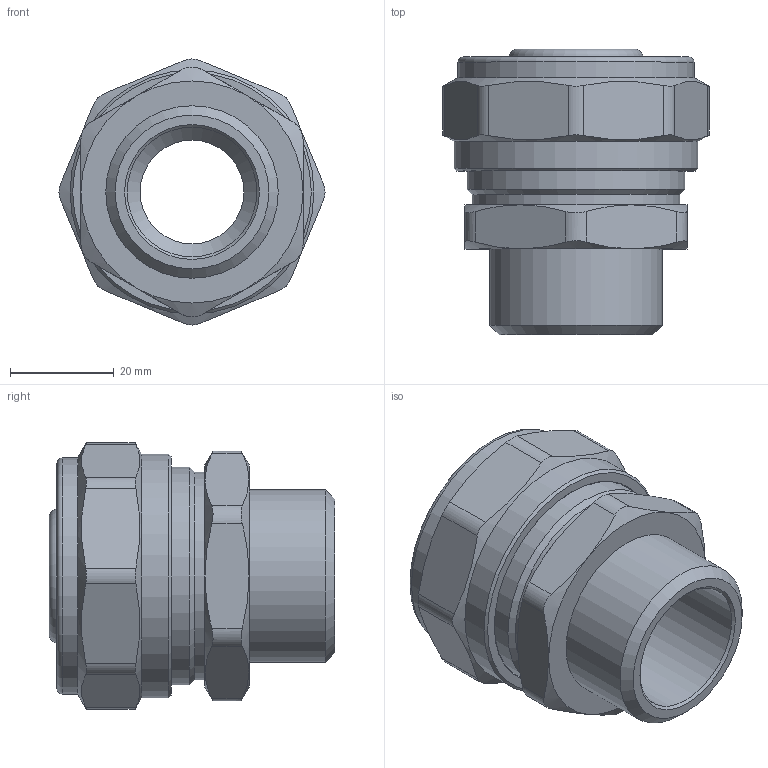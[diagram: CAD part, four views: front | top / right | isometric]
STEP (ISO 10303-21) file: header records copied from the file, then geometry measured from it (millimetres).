
FILE_DESCRIPTION(('STEP AP203'), '1');
FILE_NAME('VTm.301.N.003206', '', ('UNSPECIFIED'), ('UNSPECIFIED'), 'C3D Converter', 'C3D Toolkit', '');
FILE_SCHEMA(('CONFIG_CONTROL_DESIGN'));
Length unit declared in the file: millimetre
Products named in the file (1): ВР.302634.056.000 СБ
Bounding box: 51.3 x 55 x 51.3 mm (x, y, z)
Volume: 45076.1 mm3; surface area: 22931.2 mm2
Topology: 1 solids, 1 shells, 331 faces, 886 edges, 580 vertices
Faces by surface type: extrusion 129, plane 101, cylinder 45, torus 29, cone 27
Full cylindrical faces by diameter (mm): 20 x1, 22.8 x4, 25 x1, 25.8 x5, 26 x1, 32.1 x1, 32.2 x1, 32.7 x1, 33.249 x1, 40 x1, 40.376 x1, 42 x1, 45.5 x1, 47 x1
Entity records: 13000 total; most frequent: CARTESIAN_POINT 5579, ORIENTED_EDGE 1672, DIRECTION 1098, EDGE_CURVE 836, VERTEX_POINT 579, B_SPLINE_CURVE_WITH_KNOTS 495, VECTOR 464, EDGE_LOOP 403
